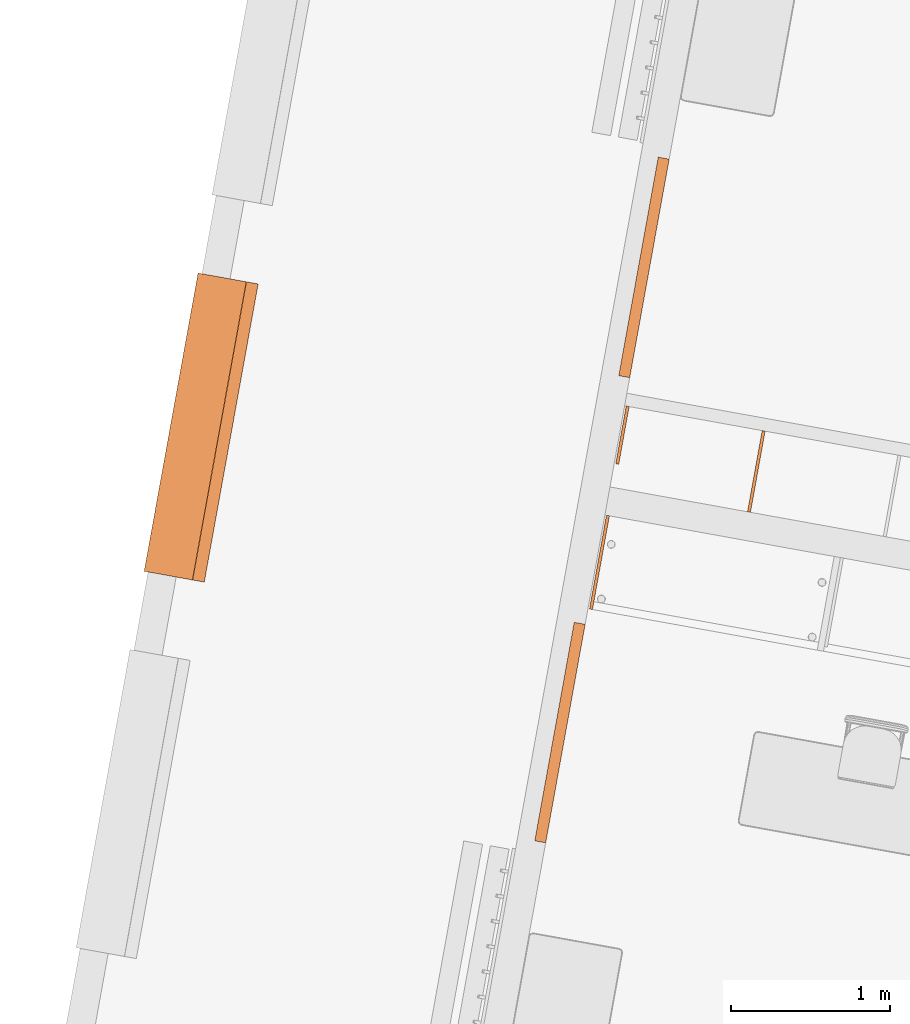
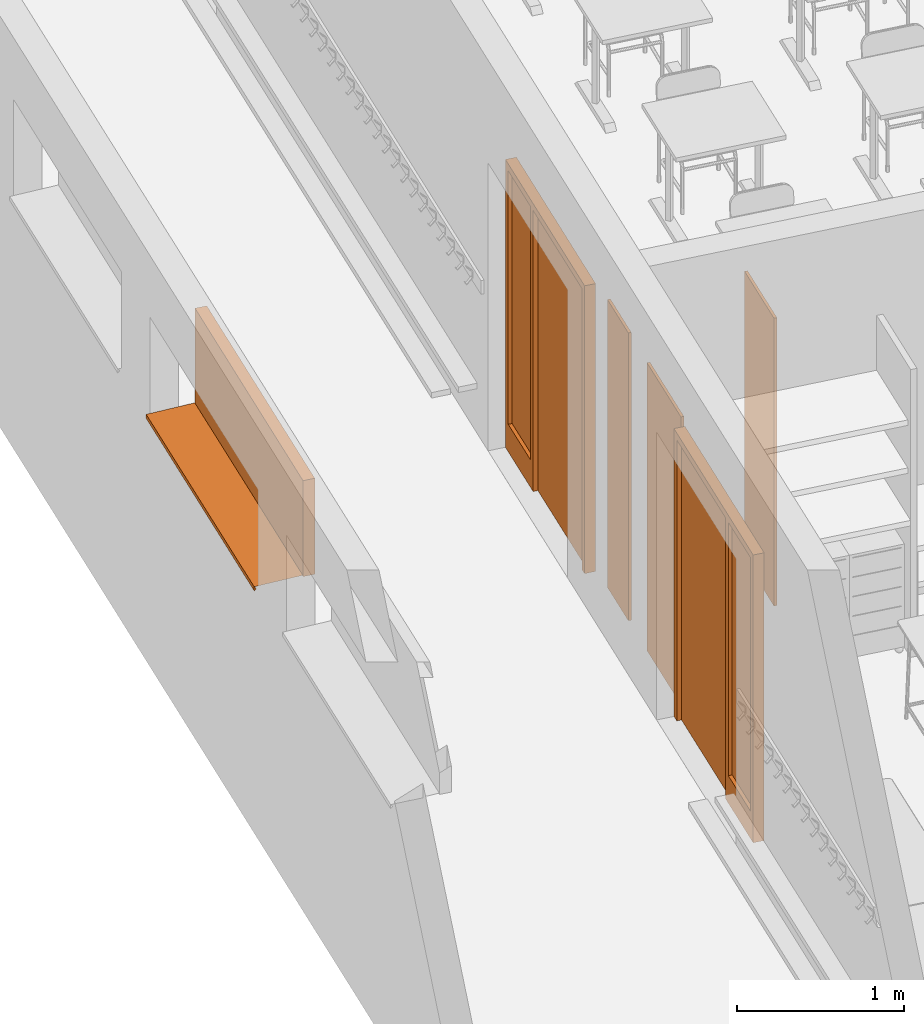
# One storey, part 43 of 79: 6 proxies.
"""IFC2X3 building model written with IfcOpenShell, lengths in metres."""

from ifc_helpers import new_model, entity, si_unit, converted_unit, derived_unit, money_unit, direction, frame, origin_with_axes, place, context, subcontext, project, spatial, polyline, outline, extrude, open_shell, faceted_brep, surface_model, source, transform, mapped, material, type_object, element, save


model = new_model("IFC2X3")

# Units and contexts
model_context = context("Model", 3, precision=1e-05, world=origin_with_axes(), true_north=direction((0.0, 1.0)))
body_context = subcontext(model_context, "Body", "Model", "MODEL_VIEW")
ifc_project = project(units=[si_unit("LENGTHUNIT", "METRE"), si_unit("AREAUNIT", "SQUARE_METRE"), si_unit("VOLUMEUNIT", "CUBIC_METRE"), converted_unit("PLANEANGLEUNIT", "DEGREE", entity("IfcPlaneAngleMeasure", 0.0174532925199), si_unit("PLANEANGLEUNIT", "RADIAN"), dimensions=[0, 0, 0, 0, 0, 0, 0]), money_unit("CHF"), converted_unit("TIMEUNIT", "Year", entity("IfcTimeMeasure", 31556926.0), si_unit("TIMEUNIT", "SECOND"), dimensions=[0, 0, 1, 0, 0, 0, 0]), si_unit("MASSUNIT", "GRAM", prefix="KILO"), si_unit("THERMODYNAMICTEMPERATUREUNIT", "DEGREE_CELSIUS"), si_unit("LUMINOUSINTENSITYUNIT", "LUMEN"), si_unit("ENERGYUNIT", "JOULE", prefix="MEGA"), derived_unit("THERMALCONDUCTANCEUNIT", [(si_unit("POWERUNIT", "WATT"), 1), (si_unit("LENGTHUNIT", "METRE"), -1), (si_unit("THERMODYNAMICTEMPERATUREUNIT", "KELVIN"), -1)]), derived_unit("SPECIFICHEATCAPACITYUNIT", [(si_unit("ENERGYUNIT", "JOULE"), 1), (si_unit("MASSUNIT", "GRAM", prefix="KILO"), -1), (si_unit("THERMODYNAMICTEMPERATUREUNIT", "KELVIN"), -1)]), derived_unit("MASSDENSITYUNIT", [(si_unit("MASSUNIT", "GRAM", prefix="KILO"), 1), (si_unit("VOLUMEUNIT", "CUBIC_METRE"), -1)])], contexts=[model_context])

# Site, building, storey
site_placement = place(None, frame((0.0, 0.0, 0.0), z_axis=(0.0, 0.0, 1.0), x_axis=(-0.177771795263, -0.984071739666, 0.0)))
site = spatial("IfcSite", under=ifc_project, at=site_placement, Name="Site", CompositionType="ELEMENT")
building_placement = place(site_placement, origin_with_axes())
building = spatial("IfcBuilding", under=site, at=building_placement, Name="Bâtiment", CompositionType="ELEMENT")
storey_placement = place(building_placement, origin_with_axes())
storey = spatial("IfcBuildingStorey", under=building, at=storey_placement, Name="RDC", CompositionType="ELEMENT", Elevation=0.0)

# Proxies
ifc_material_1 = material(Name="Matériau de construction IFC")
building_element_proxy_type_1 = type_object("IfcBuildingElementProxyType", Name="Fenêtre variable 21", PredefinedType="NOTDEFINED")
shared_shape_1 = source(origin_with_axes(), body_context, "Body", "SurfaceModel", [
    surface_model("IfcShellBasedSurfaceModel", [(0.0, 0.284, 0.02), (0.0, 0.284, 0.01), (1.91, 0.284, 0.01), (1.91, 0.284, 0.02), (0.0, -0.025, -0.00087719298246), (1.91, -0.025, -0.00087719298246), (0.0, -0.025, -0.0308771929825), (1.91, -0.025, -0.0308771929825), (0.0, -0.0125, -0.0183771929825), (1.91, -0.0125, -0.0183771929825)], [open_shell([[[0, 1, 2, 3]], [[1, 4, 5, 2]], [[4, 6, 7, 5]], [[6, 8, 9, 7]]])]),
    faceted_brep([(0.075, 0.285, 0.625), (0.075, 0.36, 0.625), (0.0, 0.36, 0.625), (0.0, 0.285, 0.625), (0.075, 0.285, 0.075), (0.075, 0.36, 0.075), (0.0, 0.36, 0.075), (0.0, 0.285, 0.075)], [[[0, 1, 2, 3]], [[4, 5, 1, 0]], [[1, 5, 6, 2]], [[3, 2, 6, 7]], [[0, 3, 7, 4]], [[7, 6, 5, 4]]]),
    faceted_brep([(1.835, 0.285, 0.075), (1.835, 0.36, 0.075), (1.91, 0.36, 0.075), (1.91, 0.285, 0.075), (1.835, 0.285, 0.625), (1.835, 0.36, 0.625), (1.91, 0.36, 0.625), (1.91, 0.285, 0.625)], [[[0, 1, 2, 3]], [[4, 5, 1, 0]], [[1, 5, 6, 2]], [[3, 2, 6, 7]], [[0, 3, 7, 4]], [[7, 6, 5, 4]]]),
    faceted_brep([(0.075, 0.285, 0.075), (0.075, 0.36, 0.075), (0.0, 0.36, 0.075), (0.0, 0.285, 0.075), (1.835, 0.285, 0.075), (1.835, 0.36, 0.075), (1.91, 0.36, 0.075), (1.91, 0.36, 0.0), (0.0, 0.36, 0.0), (0.0, 0.285, 0.0), (1.91, 0.285, 0.0), (1.91, 0.285, 0.075)], [[[0, 1, 2, 3]], [[4, 5, 1, 0]], [[1, 5, 6, 7, 8, 2]], [[3, 2, 8, 9]], [[0, 3, 9, 10, 11, 4]], [[11, 6, 5, 4]], [[10, 7, 6, 11]], [[9, 8, 7, 10]]]),
    faceted_brep([(1.835, 0.285, 0.625), (1.835, 0.36, 0.625), (1.91, 0.36, 0.625), (1.91, 0.285, 0.625), (0.075, 0.285, 0.625), (0.075, 0.36, 0.625), (0.0, 0.36, 0.625), (0.0, 0.36, 0.7), (1.91, 0.36, 0.7), (1.91, 0.285, 0.7), (0.0, 0.285, 0.7), (0.0, 0.285, 0.625)], [[[0, 1, 2, 3]], [[4, 5, 1, 0]], [[1, 5, 6, 7, 8, 2]], [[3, 2, 8, 9]], [[0, 3, 9, 10, 11, 4]], [[11, 6, 5, 4]], [[10, 7, 6, 11]], [[9, 8, 7, 10]]]),
    surface_model("IfcShellBasedSurfaceModel", [(0.075, 0.285, 0.075), (1.835, 0.285, 0.075), (1.835, 0.285, 0.625), (0.075, 0.285, 0.625)], [open_shell([[[0, 1, 2, 3]]])]),
    surface_model("IfcShellBasedSurfaceModel", [(0.075, 0.305, 0.075), (0.075, 0.305, 0.625), (1.835, 0.305, 0.625), (1.835, 0.305, 0.075)], [open_shell([[[0, 1, 2, 3]]])]),
])
proxy_1_placement = place(storey_placement, frame((118.239841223, -159.217107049, 1.7), z_axis=(0.0, 0.0, 1.0), x_axis=(1.0, 0.0, 0.0)))
element("IfcBuildingElementProxy", 1, at=proxy_1_placement, inside=storey, type_object=building_element_proxy_type_1, material=ifc_material_1, Name="Fen couloir", context=body_context, shape_type="MappedRepresentation", body=[
    mapped(shared_shape_1, transform((0.0, 0.0, 0.0))),
])
ifc_material_2 = material(Name="_panneau mélaminé")
building_element_proxy_type_2 = type_object("IfcBuildingElementProxyType", Name="_panneau mélaminé 19", PredefinedType="NOTDEFINED")
proxy_2_placement = place(storey_placement, frame((119.104841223, -155.556651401, 0.0), z_axis=(0.0, 0.0, 1.0), x_axis=(-1.0, 0.0, 0.0)))
element("IfcBuildingElementProxy", 2, at=proxy_2_placement, inside=storey, type_object=building_element_proxy_type_2, material=ifc_material_2, Name="cloison pl-classe", context=body_context, shape_type="SweptSolid", body=[
    extrude(outline(polyline([(0.0, -0.0095), (0.51999998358, -0.0095), (0.51999998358, 0.0095), (0.0, 0.0095), (0.0, -0.0095)])), origin_with_axes(), (0.0, 0.0, 1.0), 2.1),
])
proxy_3_placement = place(storey_placement, frame((118.954841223, -156.418136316, 0.0), z_axis=(0.0, 0.0, 1.0), x_axis=(-1.0, 0.0, 0.0)))
element("IfcBuildingElementProxy", 3, at=proxy_3_placement, inside=storey, type_object=building_element_proxy_type_2, material=ifc_material_2, Name="cloison pl-classe", context=body_context, shape_type="SweptSolid", body=[
    extrude(outline(polyline([(0.0, 0.0), (0.369999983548, 0.0), (0.369999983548, 0.019), (0.0, 0.019), (0.0, 0.0)])), origin_with_axes(), (0.0, 0.0, 1.0), 2.1),
])
proxy_4_placement = place(storey_placement, frame((119.884841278, -156.418151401, 0.0), z_axis=(0.0, 0.0, 1.0), x_axis=(-1.0, 0.0, 0.0)))
element("IfcBuildingElementProxy", 4, at=proxy_4_placement, inside=storey, type_object=building_element_proxy_type_2, material=ifc_material_2, Name="cloison-fd-classe G", context=body_context, shape_type="SweptSolid", body=[
    extrude(outline(polyline([(0.0, 0.0), (0.600000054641, 0.0), (0.600000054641, 0.019), (0.0, 0.019), (0.0, 0.0)])), origin_with_axes(), (0.0, 0.0, 1.0), 2.1),
])
building_element_proxy_type_3 = type_object("IfcBuildingElementProxyType", Name="Porte avec tierce vitrée côté 2 21", PredefinedType="NOTDEFINED")
shared_shape_2 = source(origin_with_axes(), body_context, "Body", "SurfaceModel", [
    faceted_brep([(0.0, 0.180000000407, 0.0), (0.05, 0.180000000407, 0.0), (0.05, 0.110000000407, 0.0), (0.0, 0.110000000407, 0.0), (0.0, 0.180000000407, 2.05), (0.05, 0.180000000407, 2.05), (0.05, 0.180000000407, 0.2), (0.05, 0.110000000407, 0.2), (0.05, 0.110000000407, 2.05), (0.0, 0.110000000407, 2.05)], [[[0, 1, 2, 3]], [[0, 4, 5, 6, 1]], [[1, 6, 7, 2]], [[3, 2, 7, 8, 9]], [[4, 0, 3, 9]], [[5, 4, 9, 8]], [[6, 5, 8, 7]]]),
    faceted_brep([(0.49, 0.140000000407, 0.0), (0.49, 0.140000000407, 2.05), (0.49, 0.110000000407, 2.05), (0.49, 0.110000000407, 0.0), (0.47, 0.140000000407, 2.05), (0.47, 0.140000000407, 0.0), (0.47, 0.180000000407, 2.05), (0.44, 0.180000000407, 2.05), (0.44, 0.110000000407, 2.05), (0.44, 0.110000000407, 0.0), (0.44, 0.110000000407, 0.2), (0.44, 0.180000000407, 0.0), (0.47, 0.180000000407, 0.0), (0.44, 0.180000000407, 0.2)], [[[0, 1, 2, 3]], [[4, 1, 0, 5]], [[4, 6, 7, 8, 2, 1]], [[9, 3, 2, 8, 10]], [[5, 0, 3, 9, 11, 12]], [[6, 4, 5, 12]], [[6, 12, 11, 13, 7]], [[13, 10, 8, 7]], [[11, 9, 10, 13]]]),
    faceted_brep([(0.05, 0.180000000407, 0.2), (0.05, 0.180000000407, 0.0), (0.05, 0.110000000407, 0.0), (0.05, 0.110000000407, 0.2), (0.44, 0.180000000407, 0.2), (0.44, 0.180000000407, 0.0), (0.44, 0.110000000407, 0.0), (0.44, 0.110000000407, 0.2)], [[[0, 1, 2, 3]], [[0, 4, 5, 1]], [[1, 5, 6, 2]], [[3, 2, 6, 7]], [[4, 0, 3, 7]], [[5, 4, 7, 6]]]),
    faceted_brep([(1.37, 0.140000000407, 2.05), (1.35, 0.140000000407, 2.05), (1.35, 0.110000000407, 2.05), (1.4, 0.110000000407, 2.05), (1.4, 0.180000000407, 2.05), (1.37, 0.180000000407, 2.05), (1.37, 0.140000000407, 0.0), (1.35, 0.140000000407, 0.0), (1.35, 0.110000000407, 0.0), (1.4, 0.110000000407, 0.0), (1.4, 0.180000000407, 0.0), (1.37, 0.180000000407, 0.0)], [[[0, 1, 2, 3, 4, 5]], [[1, 0, 6, 7]], [[1, 7, 8, 2]], [[3, 2, 8, 9]], [[4, 3, 9, 10]], [[11, 5, 4, 10]], [[0, 5, 11, 6]], [[6, 11, 10, 9, 8, 7]]]),
    faceted_brep([(0.47, 0.180000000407, 2.07), (0.47, 0.180000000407, 2.05), (0.44, 0.180000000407, 2.05), (0.05, 0.180000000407, 2.05), (0.0, 0.180000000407, 2.05), (0.0, 0.180000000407, 2.1), (1.4, 0.180000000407, 2.1), (1.4, 0.180000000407, 2.05), (1.37, 0.180000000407, 2.05), (1.37, 0.180000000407, 2.07), (0.47, 0.140000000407, 2.07), (0.47, 0.140000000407, 2.05), (1.35, 0.140000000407, 2.05), (1.35, 0.110000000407, 2.05), (0.49, 0.110000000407, 2.05), (0.44, 0.110000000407, 2.05), (0.05, 0.110000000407, 2.05), (0.0, 0.110000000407, 2.05), (0.0, 0.110000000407, 2.1), (1.4, 0.110000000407, 2.1), (1.4, 0.110000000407, 2.05), (1.37, 0.140000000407, 2.05), (1.37, 0.140000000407, 2.07)], [[[0, 1, 2, 3, 4, 5, 6, 7, 8, 9]], [[1, 0, 10, 11]], [[11, 12, 13, 14, 15, 2, 1]], [[2, 15, 16, 3]], [[3, 16, 17, 4]], [[4, 17, 18, 5]], [[5, 18, 19, 6]], [[6, 19, 20, 7]], [[21, 8, 7, 20, 13, 12]], [[9, 8, 21, 22]], [[0, 9, 22, 10]], [[21, 12, 11, 10, 22]], [[13, 20, 19, 18, 17, 16, 15, 14]]]),
    faceted_brep([(1.37, 0.180000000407, 0.0), (1.37, 0.140000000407, 0.0), (0.47, 0.140000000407, 0.0), (0.47, 0.180000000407, 0.0), (1.37, 0.180000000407, 2.07), (1.37, 0.140000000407, 2.07), (0.47, 0.140000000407, 2.07), (0.47, 0.180000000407, 2.07)], [[[0, 1, 2, 3]], [[4, 5, 1, 0]], [[1, 5, 6, 2]], [[3, 2, 6, 7]], [[0, 3, 7, 4]], [[7, 6, 5, 4]]]),
    surface_model("IfcShellBasedSurfaceModel", [(0.05, 0.145000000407, 0.2), (0.05, 0.145000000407, 2.05), (0.44, 0.145000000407, 2.05), (0.44, 0.145000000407, 0.2)], [open_shell([[[0, 1, 2, 3]]])]),
    surface_model("IfcShellBasedSurfaceModel", [(0.05, 0.135000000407, 0.2), (0.44, 0.135000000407, 0.2), (0.44, 0.135000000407, 2.05), (0.05, 0.135000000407, 2.05)], [open_shell([[[0, 1, 2, 3]]])]),
])
proxy_5_placement = place(storey_placement, frame((117.004841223, -156.627151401, 0.0), z_axis=(0.0, 0.0, 1.0), x_axis=(1.0, 0.0, 0.0)))
element("IfcBuildingElementProxy", 5, at=proxy_5_placement, inside=storey, type_object=building_element_proxy_type_3, material=ifc_material_1, Name="2", context=body_context, shape_type="MappedRepresentation", body=[
    mapped(shared_shape_2, transform((0.0, 0.0, 0.0))),
])
shared_shape_3 = source(origin_with_axes(), body_context, "Body", "SurfaceModel", [
    faceted_brep([(1.4, 0.180000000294, 0.0), (1.4, 0.110000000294, 0.0), (1.35, 0.110000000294, 0.0), (1.35, 0.180000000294, 0.0), (1.4, 0.180000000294, 2.05), (1.4, 0.110000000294, 2.05), (1.35, 0.110000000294, 2.05), (1.35, 0.110000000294, 0.2), (1.35, 0.180000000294, 0.2), (1.35, 0.180000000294, 2.05)], [[[0, 1, 2, 3]], [[4, 5, 1, 0]], [[1, 5, 6, 7, 2]], [[3, 2, 7, 8]], [[0, 3, 8, 9, 4]], [[9, 6, 5, 4]], [[8, 7, 6, 9]]]),
    faceted_brep([(0.91, 0.140000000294, 0.0), (0.91, 0.110000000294, 0.0), (0.91, 0.110000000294, 2.05), (0.91, 0.140000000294, 2.05), (0.93, 0.140000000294, 0.0), (0.93, 0.180000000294, 0.0), (0.96, 0.180000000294, 0.0), (0.96, 0.110000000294, 0.0), (0.96, 0.110000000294, 0.2), (0.96, 0.110000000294, 2.05), (0.93, 0.140000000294, 2.05), (0.96, 0.180000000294, 2.05), (0.93, 0.180000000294, 2.05), (0.96, 0.180000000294, 0.2)], [[[0, 1, 2, 3]], [[4, 5, 6, 7, 1, 0]], [[7, 8, 9, 2, 1]], [[10, 3, 2, 9, 11, 12]], [[10, 4, 0, 3]], [[12, 5, 4, 10]], [[12, 11, 13, 6, 5]], [[6, 13, 8, 7]], [[13, 11, 9, 8]]]),
    faceted_brep([(1.35, 0.180000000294, 0.2), (1.35, 0.110000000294, 0.2), (1.35, 0.110000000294, 0.0), (1.35, 0.180000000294, 0.0), (0.96, 0.180000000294, 0.2), (0.96, 0.110000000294, 0.2), (0.96, 0.110000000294, 0.0), (0.96, 0.180000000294, 0.0)], [[[0, 1, 2, 3]], [[4, 5, 1, 0]], [[1, 5, 6, 2]], [[3, 2, 6, 7]], [[0, 3, 7, 4]], [[7, 6, 5, 4]]]),
    faceted_brep([(0.03, 0.140000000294, 2.05), (0.03, 0.180000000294, 2.05), (0.0, 0.180000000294, 2.05), (0.0, 0.110000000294, 2.05), (0.05, 0.110000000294, 2.05), (0.05, 0.140000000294, 2.05), (0.03, 0.140000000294, 0.0), (0.03, 0.180000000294, 0.0), (0.0, 0.180000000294, 0.0), (0.0, 0.110000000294, 0.0), (0.05, 0.110000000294, 0.0), (0.05, 0.140000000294, 0.0)], [[[0, 1, 2, 3, 4, 5]], [[0, 6, 7, 1]], [[7, 8, 2, 1]], [[2, 8, 9, 3]], [[3, 9, 10, 4]], [[5, 4, 10, 11]], [[5, 11, 6, 0]], [[6, 11, 10, 9, 8, 7]]]),
    faceted_brep([(0.93, 0.180000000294, 2.07), (0.03, 0.180000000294, 2.07), (0.03, 0.180000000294, 2.05), (0.0, 0.180000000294, 2.05), (0.0, 0.180000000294, 2.1), (1.4, 0.180000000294, 2.1), (1.4, 0.180000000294, 2.05), (1.35, 0.180000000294, 2.05), (0.96, 0.180000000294, 2.05), (0.93, 0.180000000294, 2.05), (0.93, 0.140000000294, 2.07), (0.03, 0.140000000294, 2.07), (0.03, 0.140000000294, 2.05), (0.05, 0.140000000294, 2.05), (0.05, 0.110000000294, 2.05), (0.0, 0.110000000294, 2.05), (0.0, 0.110000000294, 2.1), (1.4, 0.110000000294, 2.1), (1.4, 0.110000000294, 2.05), (1.35, 0.110000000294, 2.05), (0.96, 0.110000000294, 2.05), (0.93, 0.140000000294, 2.05), (0.91, 0.110000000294, 2.05)], [[[0, 1, 2, 3, 4, 5, 6, 7, 8, 9]], [[0, 10, 11, 1]], [[1, 11, 12, 2]], [[12, 13, 14, 15, 3, 2]], [[4, 3, 15, 16]], [[5, 4, 16, 17]], [[6, 5, 17, 18]], [[7, 6, 18, 19]], [[8, 7, 19, 20]], [[21, 9, 8, 20, 22, 14, 13]], [[9, 21, 10, 0]], [[12, 11, 10, 21, 13]], [[14, 22, 20, 19, 18, 17, 16, 15]]]),
    faceted_brep([(0.03, 0.180000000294, 0.0), (0.93, 0.180000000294, 0.0), (0.93, 0.140000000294, 0.0), (0.03, 0.140000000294, 0.0), (0.03, 0.180000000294, 2.07), (0.93, 0.180000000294, 2.07), (0.93, 0.140000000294, 2.07), (0.03, 0.140000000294, 2.07)], [[[0, 1, 2, 3]], [[0, 4, 5, 1]], [[1, 5, 6, 2]], [[3, 2, 6, 7]], [[4, 0, 3, 7]], [[5, 4, 7, 6]]]),
    surface_model("IfcShellBasedSurfaceModel", [(1.35, 0.145000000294, 0.2), (0.96, 0.145000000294, 0.2), (0.96, 0.145000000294, 2.05), (1.35, 0.145000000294, 2.05)], [open_shell([[[0, 1, 2, 3]]])]),
    surface_model("IfcShellBasedSurfaceModel", [(1.35, 0.135000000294, 0.2), (1.35, 0.135000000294, 2.05), (0.96, 0.135000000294, 2.05), (0.96, 0.135000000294, 0.2)], [open_shell([[[0, 1, 2, 3]]])]),
])
proxy_6_placement = place(storey_placement, frame((119.984841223, -156.627151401, 0.0), z_axis=(0.0, 0.0, 1.0), x_axis=(1.0, 0.0, 0.0)))
element("IfcBuildingElementProxy", 6, at=proxy_6_placement, inside=storey, type_object=building_element_proxy_type_3, material=ifc_material_1, Name="3", context=body_context, shape_type="MappedRepresentation", body=[
    mapped(shared_shape_3, transform((0.0, 0.0, 0.0))),
])

save(model, "model.ifc")
